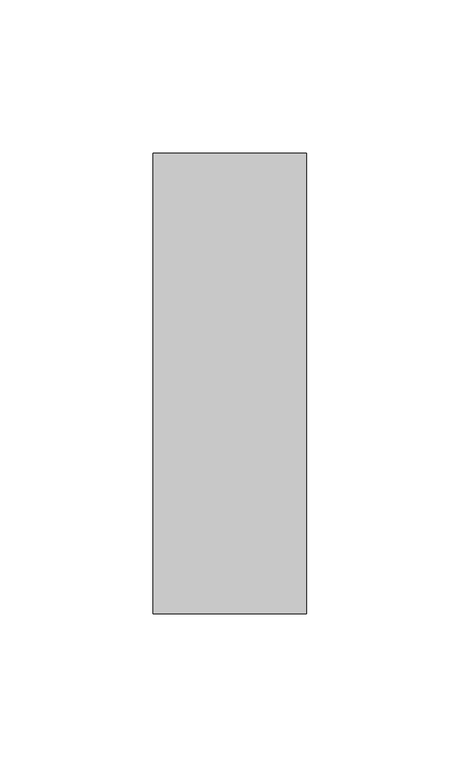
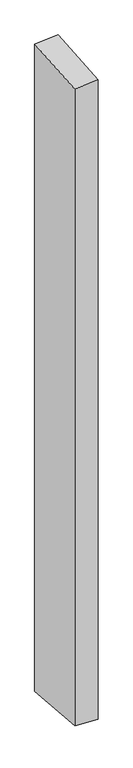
"""IFC4 building model written with IfcOpenShell, lengths in millimetres: member geometry, Прямоугольный импост : 50 x 150 мм."""

from ifc_helpers import new_model, si_unit, origin, place, context, project, spatial, faceted_brep, source, transform, mapped, element, save


def member_70d23f0f(model_context):
    return source(origin(), model_context, "Body", "Brep", [
        faceted_brep([(-25.0, 75.0, 4.2040244), (25.0, 75.0, 7.4714269), (25.0, 75.0, -1474.0685695), (-25.0, 75.0, -1470.6952646), (-25.0, -75.0, -7.4714269), (-25.0, -75.0, -1458.2121206), (25.0, -75.0, -4.2040244), (25.0, -75.0, -1461.5854254)], [[[0, 1, 2, 3]], [[4, 0, 3, 5]], [[6, 4, 5, 7]], [[1, 6, 7, 2]], [[1, 0, 4, 6]], [[2, 7, 5, 3]]]),
    ])


if __name__ == "__main__":
    model = new_model("IFC4")
    model_context = context("Model", 3, world=origin())
    ifc_project = project(units=[si_unit("LENGTHUNIT", "METRE", prefix="MILLI")], contexts=[model_context])
    site = spatial("IfcSite", under=ifc_project)
    building = spatial("IfcBuilding", under=site)
    placement = place(None, origin())
    member_shape = member_70d23f0f(model_context)
    element("IfcMember", 1, ObjectType="Прямоугольный импост : 50 x 150 мм", at=placement, inside=building, context=model_context, shape_type="MappedRepresentation", body=[
        mapped(member_shape, transform((0.0, 0.0, 0.0), x_axis=(1.0, 0.0, 0.0), y_axis=(0.0, 1.0, 0.0), z_axis=(0.0, 0.0, 1.0))),
    ])
    save(model, "model.ifc")
